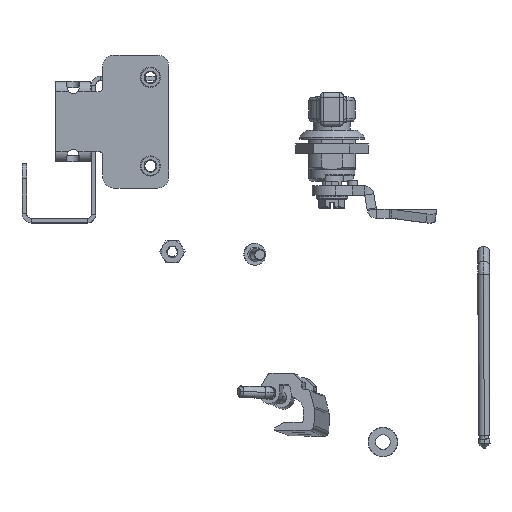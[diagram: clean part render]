
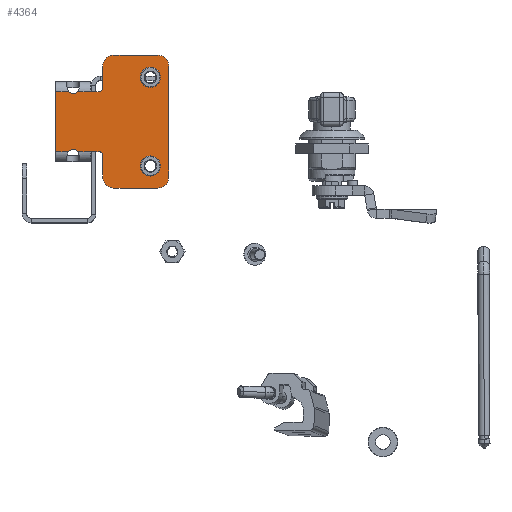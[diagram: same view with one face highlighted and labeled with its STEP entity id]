
A CAD part, top view. The second image highlights one B-rep face of the part: STEP entity #4364.
In plain terms, the highlighted planar face has unit normal (0, 0, 1).
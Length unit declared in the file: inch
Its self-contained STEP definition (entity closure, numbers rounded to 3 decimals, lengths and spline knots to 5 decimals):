
#3390=CARTESIAN_POINT('',(1.3075,-0.75,0.));
#3391=DIRECTION('',(0.,0.,1.));
#3392=DIRECTION('',(0.,1.,0.));
#3393=AXIS2_PLACEMENT_3D('',#3390,#3391,#3392);
#3395=CARTESIAN_POINT('',(1.3075,-0.75,0.));
#3396=DIRECTION('',(0.,0.,1.));
#3397=DIRECTION('',(0.,-1.,0.));
#3398=AXIS2_PLACEMENT_3D('',#3395,#3396,#3397);
#3400=CARTESIAN_POINT('',(1.3075,0.75,0.));
#3401=DIRECTION('',(0.,0.,1.));
#3402=DIRECTION('',(0.,1.,0.));
#3403=AXIS2_PLACEMENT_3D('',#3400,#3401,#3402);
#3405=CARTESIAN_POINT('',(1.3075,0.75,0.));
#3406=DIRECTION('',(0.,0.,1.));
#3407=DIRECTION('',(0.,-1.,0.));
#3408=AXIS2_PLACEMENT_3D('',#3405,#3406,#3407);
#3410=CARTESIAN_POINT('',(0.691,0.9375,0.));
#3411=DIRECTION('',(0.,0.,1.));
#3412=DIRECTION('',(0.,1.,0.));
#3413=AXIS2_PLACEMENT_3D('',#3410,#3411,#3412);
#3415=DIRECTION('',(1.,0.,0.));
#3416=VECTOR('',#3415,0.7415);
#3417=CARTESIAN_POINT('',(0.691,1.125,0.));
#3418=LINE('',#3417,#3416);
#3419=CARTESIAN_POINT('',(1.4325,0.9375,0.));
#3420=DIRECTION('',(0.,0.,1.));
#3421=DIRECTION('',(1.,0.,0.));
#3422=AXIS2_PLACEMENT_3D('',#3419,#3420,#3421);
#3424=DIRECTION('',(0.,-1.,0.));
#3425=VECTOR('',#3424,1.875);
#3426=CARTESIAN_POINT('',(1.62,0.9375,0.));
#3427=LINE('',#3426,#3425);
#3428=CARTESIAN_POINT('',(1.4325,-0.9375,0.));
#3429=DIRECTION('',(0.,0.,1.));
#3430=DIRECTION('',(0.,-1.,0.));
#3431=AXIS2_PLACEMENT_3D('',#3428,#3429,#3430);
#3433=DIRECTION('',(-1.,0.,0.));
#3434=VECTOR('',#3433,0.7415);
#3435=CARTESIAN_POINT('',(1.4325,-1.125,0.));
#3436=LINE('',#3435,#3434);
#3437=CARTESIAN_POINT('',(0.691,-0.9375,0.));
#3438=DIRECTION('',(0.,0.,1.));
#3439=DIRECTION('',(-1.,0.,0.));
#3440=AXIS2_PLACEMENT_3D('',#3437,#3438,#3439);
#3442=DIRECTION('',(0.,1.,0.));
#3443=VECTOR('',#3442,0.3675);
#3444=CARTESIAN_POINT('',(0.5035,-0.9375,0.));
#3445=LINE('',#3444,#3443);
#3446=DIRECTION('',(1.,0.,0.));
#3447=VECTOR('',#3446,0.1455);
#3448=CARTESIAN_POINT('',(0.2955,-0.5075,0.));
#3449=LINE('',#3448,#3447);
#3450=CARTESIAN_POINT('',(0.,-0.57732,0.));
#3451=DIRECTION('',(0.,0.,1.));
#3452=DIRECTION('',(0.741,0.671,0.));
#3453=AXIS2_PLACEMENT_3D('',#3450,#3451,#3452);
#3455=DIRECTION('',(0.,-1.,0.));
#3456=VECTOR('',#3455,1.015);
#3457=CARTESIAN_POINT('',(-0.2955,0.5075,0.));
#3458=LINE('',#3457,#3456);
#3459=CARTESIAN_POINT('',(0.,0.57732,0.));
#3460=DIRECTION('',(0.,0.,1.));
#3461=DIRECTION('',(-0.741,-0.671,0.));
#3462=AXIS2_PLACEMENT_3D('',#3459,#3460,#3461);
#3464=DIRECTION('',(-1.,0.,0.));
#3465=VECTOR('',#3464,0.1455);
#3466=CARTESIAN_POINT('',(0.441,0.5075,0.));
#3467=LINE('',#3466,#3465);
#3468=DIRECTION('',(0.,1.,0.));
#3469=VECTOR('',#3468,0.3675);
#3470=CARTESIAN_POINT('',(0.5035,0.57,0.));
#3471=LINE('',#3470,#3469);
#3578=CARTESIAN_POINT('',(0.441,0.57,0.));
#3579=DIRECTION('',(0.,0.,-1.));
#3580=DIRECTION('',(1.,0.,0.));
#3581=AXIS2_PLACEMENT_3D('',#3578,#3579,#3580);
#3615=DIRECTION('',(-1.,0.,0.));
#3616=VECTOR('',#3615,0.21842);
#3617=CARTESIAN_POINT('',(0.2955,0.5075,0.));
#3618=LINE('',#3617,#3616);
#3633=CARTESIAN_POINT('',(-0.07708,0.5075,0.));
#3635=DIRECTION('',(-1.,0.,0.));
#3636=VECTOR('',#3635,0.21842);
#3637=CARTESIAN_POINT('',(-0.07708,0.5075,0.));
#3638=LINE('',#3637,#3636);
#3768=DIRECTION('',(1.,0.,0.));
#3769=VECTOR('',#3768,0.21842);
#3770=CARTESIAN_POINT('',(-0.2955,-0.5075,0.));
#3771=LINE('',#3770,#3769);
#3788=DIRECTION('',(1.,0.,0.));
#3789=VECTOR('',#3788,0.21842);
#3790=CARTESIAN_POINT('',(0.07708,-0.5075,0.));
#3791=LINE('',#3790,#3789);
#3902=CARTESIAN_POINT('',(0.441,-0.57,0.));
#3903=DIRECTION('',(0.,0.,-1.));
#3904=DIRECTION('',(0.,1.,0.));
#3905=AXIS2_PLACEMENT_3D('',#3902,#3903,#3904);
#4118=CARTESIAN_POINT('',(-0.2955,0.5075,0.));
#4119=CARTESIAN_POINT('',(-0.2955,-0.5075,0.));
#4120=VERTEX_POINT('',#4118);
#4121=VERTEX_POINT('',#4119);
#4146=CARTESIAN_POINT('',(0.2955,0.5075,0.));
#4147=VERTEX_POINT('',#4146);
#4152=VERTEX_POINT('',#3633);
#4163=CARTESIAN_POINT('',(0.07708,0.5075,0.));
#4164=VERTEX_POINT('',#4163);
#4167=CARTESIAN_POINT('',(0.07708,-0.5075,0.));
#4168=CARTESIAN_POINT('',(-0.07708,-0.5075,0.));
#4169=VERTEX_POINT('',#4167);
#4170=VERTEX_POINT('',#4168);
#4196=CARTESIAN_POINT('',(0.2955,-0.5075,0.));
#4198=VERTEX_POINT('',#4196);
#4241=CARTESIAN_POINT('',(1.3075,-0.625,0.));
#4242=CARTESIAN_POINT('',(1.3075,-0.875,0.));
#4243=VERTEX_POINT('',#4241);
#4244=VERTEX_POINT('',#4242);
#4245=CARTESIAN_POINT('',(1.3075,0.875,0.));
#4246=CARTESIAN_POINT('',(1.3075,0.625,0.));
#4247=VERTEX_POINT('',#4245);
#4248=VERTEX_POINT('',#4246);
#4257=CARTESIAN_POINT('',(0.691,1.125,0.));
#4258=CARTESIAN_POINT('',(0.5035,0.9375,0.));
#4259=VERTEX_POINT('',#4257);
#4260=VERTEX_POINT('',#4258);
#4265=CARTESIAN_POINT('',(0.5035,-0.9375,0.));
#4266=CARTESIAN_POINT('',(0.691,-1.125,0.));
#4267=VERTEX_POINT('',#4265);
#4268=VERTEX_POINT('',#4266);
#4273=CARTESIAN_POINT('',(1.62,0.9375,0.));
#4274=CARTESIAN_POINT('',(1.4325,1.125,0.));
#4275=VERTEX_POINT('',#4273);
#4276=VERTEX_POINT('',#4274);
#4281=CARTESIAN_POINT('',(1.4325,-1.125,0.));
#4282=CARTESIAN_POINT('',(1.62,-0.9375,0.));
#4283=VERTEX_POINT('',#4281);
#4284=VERTEX_POINT('',#4282);
#4289=CARTESIAN_POINT('',(0.5035,0.57,0.));
#4291=VERTEX_POINT('',#4289);
#4293=CARTESIAN_POINT('',(0.441,0.5075,0.));
#4295=VERTEX_POINT('',#4293);
#4297=CARTESIAN_POINT('',(0.441,-0.5075,0.));
#4299=VERTEX_POINT('',#4297);
#4301=CARTESIAN_POINT('',(0.5035,-0.57,0.));
#4303=VERTEX_POINT('',#4301);
#4305=CARTESIAN_POINT('',(0.,0.,0.));
#4306=DIRECTION('',(0.,0.,1.));
#4307=DIRECTION('',(1.,0.,0.));
#4308=AXIS2_PLACEMENT_3D('',#4305,#4306,#4307);
#4309=PLANE('',#4308);
#4311=ORIENTED_EDGE('',*,*,#4310,.F.);
#4313=ORIENTED_EDGE('',*,*,#4312,.T.);
#4315=ORIENTED_EDGE('',*,*,#4314,.F.);
#4317=ORIENTED_EDGE('',*,*,#4316,.T.);
#4319=ORIENTED_EDGE('',*,*,#4318,.F.);
#4321=ORIENTED_EDGE('',*,*,#4320,.T.);
#4323=ORIENTED_EDGE('',*,*,#4322,.F.);
#4325=ORIENTED_EDGE('',*,*,#4324,.T.);
#4327=ORIENTED_EDGE('',*,*,#4326,.F.);
#4329=ORIENTED_EDGE('',*,*,#4328,.F.);
#4331=ORIENTED_EDGE('',*,*,#4330,.F.);
#4333=ORIENTED_EDGE('',*,*,#4332,.T.);
#4335=ORIENTED_EDGE('',*,*,#4334,.F.);
#4337=ORIENTED_EDGE('',*,*,#4336,.F.);
#4339=ORIENTED_EDGE('',*,*,#4338,.F.);
#4341=ORIENTED_EDGE('',*,*,#4340,.T.);
#4343=ORIENTED_EDGE('',*,*,#4342,.F.);
#4345=ORIENTED_EDGE('',*,*,#4344,.F.);
#4347=ORIENTED_EDGE('',*,*,#4346,.F.);
#4349=ORIENTED_EDGE('',*,*,#4348,.T.);
#4350=EDGE_LOOP('',(#4311,#4313,#4315,#4317,#4319,#4321,#4323,#4325,#4327,#4329,
#4331,#4333,#4335,#4337,#4339,#4341,#4343,#4345,#4347,#4349));
#4351=FACE_OUTER_BOUND('',#4350,.F.);
#4353=ORIENTED_EDGE('',*,*,#4352,.T.);
#4355=ORIENTED_EDGE('',*,*,#4354,.T.);
#4356=EDGE_LOOP('',(#4353,#4355));
#4357=FACE_BOUND('',#4356,.F.);
#4359=ORIENTED_EDGE('',*,*,#4358,.T.);
#4361=ORIENTED_EDGE('',*,*,#4360,.T.);
#4362=EDGE_LOOP('',(#4359,#4361));
#4363=FACE_BOUND('',#4362,.F.);
#3394=CIRCLE('',#3393,0.125);
#3399=CIRCLE('',#3398,0.125);
#3404=CIRCLE('',#3403,0.125);
#3409=CIRCLE('',#3408,0.125);
#3414=CIRCLE('',#3413,0.1875);
#3423=CIRCLE('',#3422,0.1875);
#3432=CIRCLE('',#3431,0.1875);
#3441=CIRCLE('',#3440,0.1875);
#3454=CIRCLE('',#3453,0.104);
#3463=CIRCLE('',#3462,0.104);
#3582=CIRCLE('',#3581,0.0625);
#3906=CIRCLE('',#3905,0.0625);
#4310=EDGE_CURVE('',#4259,#4260,#3414,.T.);
#4312=EDGE_CURVE('',#4259,#4276,#3418,.T.);
#4314=EDGE_CURVE('',#4275,#4276,#3423,.T.);
#4316=EDGE_CURVE('',#4275,#4284,#3427,.T.);
#4318=EDGE_CURVE('',#4283,#4284,#3432,.T.);
#4320=EDGE_CURVE('',#4283,#4268,#3436,.T.);
#4322=EDGE_CURVE('',#4267,#4268,#3441,.T.);
#4324=EDGE_CURVE('',#4267,#4303,#3445,.T.);
#4326=EDGE_CURVE('',#4299,#4303,#3906,.T.);
#4328=EDGE_CURVE('',#4198,#4299,#3449,.T.);
#4330=EDGE_CURVE('',#4169,#4198,#3791,.T.);
#4332=EDGE_CURVE('',#4169,#4170,#3454,.T.);
#4334=EDGE_CURVE('',#4121,#4170,#3771,.T.);
#4336=EDGE_CURVE('',#4120,#4121,#3458,.T.);
#4338=EDGE_CURVE('',#4152,#4120,#3638,.T.);
#4340=EDGE_CURVE('',#4152,#4164,#3463,.T.);
#4342=EDGE_CURVE('',#4147,#4164,#3618,.T.);
#4344=EDGE_CURVE('',#4295,#4147,#3467,.T.);
#4346=EDGE_CURVE('',#4291,#4295,#3582,.T.);
#4348=EDGE_CURVE('',#4291,#4260,#3471,.T.);
#4352=EDGE_CURVE('',#4247,#4248,#3404,.T.);
#4354=EDGE_CURVE('',#4248,#4247,#3409,.T.);
#4358=EDGE_CURVE('',#4243,#4244,#3394,.T.);
#4360=EDGE_CURVE('',#4244,#4243,#3399,.T.);
#4364=ADVANCED_FACE('',(#4351,#4357,#4363),#4309,.T.);
